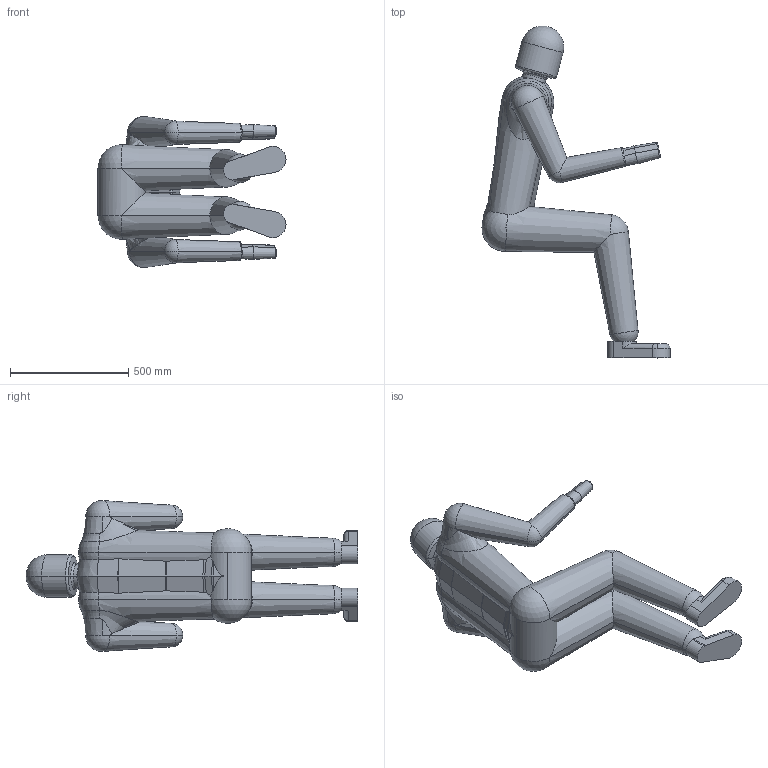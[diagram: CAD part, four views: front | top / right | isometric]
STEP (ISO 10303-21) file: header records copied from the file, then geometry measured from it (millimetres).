
FILE_DESCRIPTION (( 'STEP AP214' ), '1' );
FILE_NAME ('Mensch-sitzend.STEP', '2007-05-07T15:45:14', ( 'Gerhard Deeg' ), ( 'EDV - Technik' ), 'SwSTEP 2.0', 'SolidWorks 2007', '' );
FILE_SCHEMA (( 'AUTOMOTIVE_DESIGN' ));
Length unit declared in the file: millimetre
Products named in the file (1): Mensch-sitzend
Bounding box: 795.06 x 1403.28 x 638.61 mm (x, y, z)
Volume: 97694900.9 mm3; surface area: 2304754.4 mm2
Topology: 3 solids, 3 shells, 160 faces, 403 edges, 239 vertices
Faces by surface type: cone 54, plane 38, cylinder 22, sphere 22, torus 20, bspline 4
Entity records: 8613 total; most frequent: CARTESIAN_POINT 3143, DIRECTION 807, ORIENTED_EDGE 766, EDGE_CURVE 383, AXIS2_PLACEMENT_3D 342, VERTEX_POINT 229, CIRCLE 185, UNCERTAINTY_MEASURE_WITH_UNIT 164
